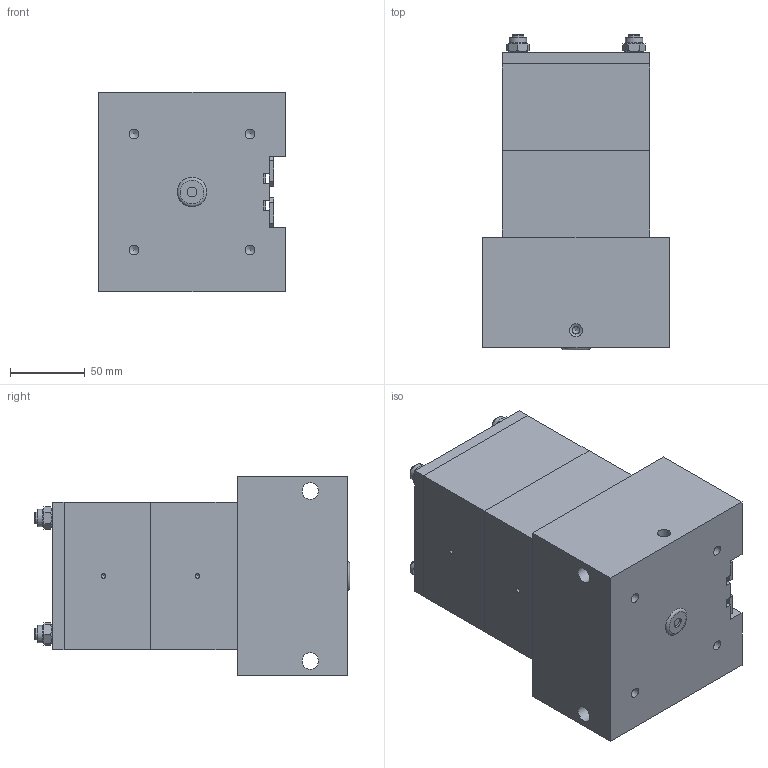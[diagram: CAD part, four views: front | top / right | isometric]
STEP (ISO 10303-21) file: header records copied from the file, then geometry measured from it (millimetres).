
FILE_DESCRIPTION((''),'2;1');
FILE_NAME('C:\VaultWork\Zeichnungen\Maßblätter\Multizylinder\M 90\M90-40\M01821-3-1 Maßblatt Multizylinder M90-3-40 berührungslose Abfrage.stp','2013-08-27T12:55:54',('Sergeew'),(''),'Autodesk Inventor 2012','Autodesk Inventor 2012','');
FILE_SCHEMA(('AUTOMOTIVE_DESIGN { 1 0 10303 214 1 1 1 1 }'));
Length unit declared in the file: millimetre
Products named in the file (1): M01821-3-1 Maßblatt Multizylinder M90-3-40 berührungslose Abfrage
Bounding box: 125 x 211.5 x 134 mm (x, y, z)
Volume: 2357119.5 mm3; surface area: 154505.5 mm2
Topology: 1 solids, 5 shells, 196 faces, 463 edges, 297 vertices
Faces by surface type: plane 122, cylinder 45, cone 28, torus 1
Full cylindrical faces by diameter (mm): 3 x2, 4.3 x4, 5 x1, 6.647 x5, 8 x8, 8.566 x2, 9 x4, 10 x8, 11 x2, 11.6 x4, 15 x1
Entity records: 5019 total; most frequent: CARTESIAN_POINT 917, DIRECTION 814, ORIENTED_EDGE 720, EDGE_CURVE 360, AXIS2_PLACEMENT_3D 305, EDGE_LOOP 298, VERTEX_POINT 264, VECTOR 204
